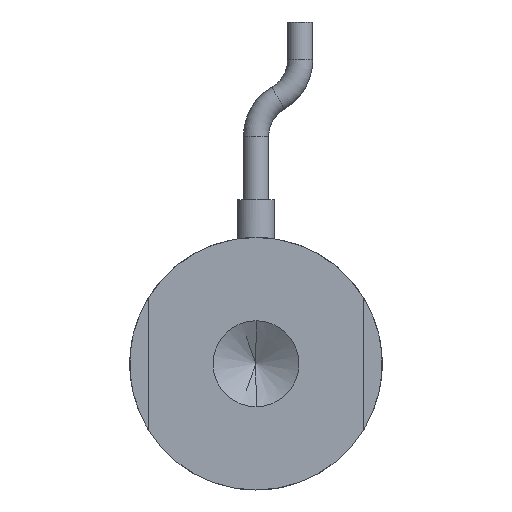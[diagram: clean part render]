
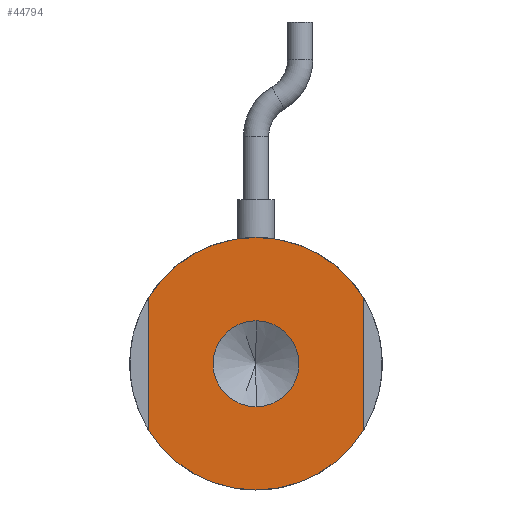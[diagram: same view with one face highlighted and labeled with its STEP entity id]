
A CAD part, front view. The second image highlights one B-rep face of the part: STEP entity #44794.
In plain terms, the highlighted planar face has unit normal (0, -1, 0).
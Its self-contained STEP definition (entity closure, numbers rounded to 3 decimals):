
#1290 = VERTEX_POINT ( 'NONE', #36623 ) ;
#2093 = DIRECTION ( 'NONE',  ( 0., 1., 0. ) ) ;
#2499 = CARTESIAN_POINT ( 'NONE',  ( 0., 0., 10. ) ) ;
#2838 = VERTEX_POINT ( 'NONE', #37810 ) ;
#3417 = CARTESIAN_POINT ( 'NONE',  ( 0., 0., 0. ) ) ;
#3435 = CARTESIAN_POINT ( 'NONE',  ( 0., 0., 0. ) ) ;
#3552 = DIRECTION ( 'NONE',  ( 0., 0., -1. ) ) ;
#4923 = CARTESIAN_POINT ( 'NONE',  ( 0., 0., 0. ) ) ;
#5875 = AXIS2_PLACEMENT_3D ( 'NONE', #4923, #29034, #8399 ) ;
#5955 = ORIENTED_EDGE ( 'NONE', *, *, #37107, .F. ) ;
#6876 = DIRECTION ( 'NONE',  ( 0., 0., 1. ) ) ;
#6895 = DIRECTION ( 'NONE',  ( 0., 0., 1. ) ) ;
#7510 = FACE_BOUND ( 'NONE', #40662, .T. ) ;
#7781 = VERTEX_POINT ( 'NONE', #9418 ) ;
#7807 = CARTESIAN_POINT ( 'NONE',  ( 0., 0., 0. ) ) ;
#8075 = AXIS2_PLACEMENT_3D ( 'NONE', #3417, #27517, #6876 ) ;
#8399 = DIRECTION ( 'NONE',  ( 0., 0., -1. ) ) ;
#9087 = CIRCLE ( 'NONE', #5875, 3.4 ) ;
#9418 = CARTESIAN_POINT ( 'NONE',  ( 0., 0., 3.4 ) ) ;
#9865 = VERTEX_POINT ( 'NONE', #2499 ) ;
#10095 = AXIS2_PLACEMENT_3D ( 'NONE', #7807, #31926, #11320 ) ;
#10986 = EDGE_CURVE ( 'NONE', #31655, #30752, #20379, .T. ) ;
#11115 = EDGE_CURVE ( 'NONE', #7781, #2838, #9087, .T. ) ;
#11160 = EDGE_CURVE ( 'NONE', #1290, #31655, #43633, .T. ) ;
#11320 = DIRECTION ( 'NONE',  ( 0., 0., 1. ) ) ;
#11921 = PLANE ( 'NONE',  #36650 ) ;
#15264 = VECTOR ( 'NONE', #40406, 1000. ) ;
#15410 = DIRECTION ( 'NONE',  ( 0., 1., 0. ) ) ;
#17514 = CARTESIAN_POINT ( 'NONE',  ( -8.5, 0., -5.268 ) ) ;
#19743 = ORIENTED_EDGE ( 'NONE', *, *, #36837, .F. ) ;
#20379 = CIRCLE ( 'NONE', #27492, 10. ) ;
#20786 = EDGE_CURVE ( 'NONE', #9865, #1290, #28154, .T. ) ;
#21726 = EDGE_CURVE ( 'NONE', #24901, #24017, #32460, .T. ) ;
#22374 = ORIENTED_EDGE ( 'NONE', *, *, #10986, .F. ) ;
#22756 = CARTESIAN_POINT ( 'NONE',  ( 0., 0., 0. ) ) ;
#23894 = AXIS2_PLACEMENT_3D ( 'NONE', #44902, #24177, #3552 ) ;
#24017 = VERTEX_POINT ( 'NONE', #40853 ) ;
#24177 = DIRECTION ( 'NONE',  ( 0., -1., 0. ) ) ;
#24901 = VERTEX_POINT ( 'NONE', #17514 ) ;
#25186 = VECTOR ( 'NONE', #33144, 1000. ) ;
#25367 = ORIENTED_EDGE ( 'NONE', *, *, #11115, .F. ) ;
#25665 = ORIENTED_EDGE ( 'NONE', *, *, #11160, .F. ) ;
#26134 = CIRCLE ( 'NONE', #28459, 10. ) ;
#26210 = DIRECTION ( 'NONE',  ( 0., 0., 1. ) ) ;
#26627 = CIRCLE ( 'NONE', #10095, 10. ) ;
#27492 = AXIS2_PLACEMENT_3D ( 'NONE', #3435, #27536, #6895 ) ;
#27517 = DIRECTION ( 'NONE',  ( 0., 1., 0. ) ) ;
#27536 = DIRECTION ( 'NONE',  ( 0., 1., 0. ) ) ;
#28154 = CIRCLE ( 'NONE', #8075, 10. ) ;
#28459 = AXIS2_PLACEMENT_3D ( 'NONE', #22756, #2093, #26210 ) ;
#29034 = DIRECTION ( 'NONE',  ( 0., -1., 0. ) ) ;
#29640 = CARTESIAN_POINT ( 'NONE',  ( 8.5, 0., 0. ) ) ;
#30752 = VERTEX_POINT ( 'NONE', #37478 ) ;
#31655 = VERTEX_POINT ( 'NONE', #35099 ) ;
#31926 = DIRECTION ( 'NONE',  ( 0., 1., 0. ) ) ;
#32041 = ORIENTED_EDGE ( 'NONE', *, *, #32755, .F. ) ;
#32460 = LINE ( 'NONE', #36794, #15264 ) ;
#32569 = CIRCLE ( 'NONE', #23894, 3.4 ) ;
#32755 = EDGE_CURVE ( 'NONE', #30752, #24901, #26134, .T. ) ;
#32885 = FACE_OUTER_BOUND ( 'NONE', #34779, .T. ) ;
#33033 = ORIENTED_EDGE ( 'NONE', *, *, #20786, .F. ) ;
#33144 = DIRECTION ( 'NONE',  ( 0., 0., -1. ) ) ;
#34779 = EDGE_LOOP ( 'NONE', ( #38602, #32041, #22374, #25665, #33033, #19743 ) ) ;
#35099 = CARTESIAN_POINT ( 'NONE',  ( 8.5, 0., -5.268 ) ) ;
#35894 = CARTESIAN_POINT ( 'NONE',  ( 0., 0., 0. ) ) ;
#36623 = CARTESIAN_POINT ( 'NONE',  ( 8.5, 0., 5.268 ) ) ;
#36650 = AXIS2_PLACEMENT_3D ( 'NONE', #35894, #15410, #39504 ) ;
#36794 = CARTESIAN_POINT ( 'NONE',  ( -8.5, 0., 0. ) ) ;
#36837 = EDGE_CURVE ( 'NONE', #24017, #9865, #26627, .T. ) ;
#37107 = EDGE_CURVE ( 'NONE', #2838, #7781, #32569, .T. ) ;
#37478 = CARTESIAN_POINT ( 'NONE',  ( 0., 0., -10. ) ) ;
#37810 = CARTESIAN_POINT ( 'NONE',  ( 0., 0., -3.4 ) ) ;
#38602 = ORIENTED_EDGE ( 'NONE', *, *, #21726, .F. ) ;
#39504 = DIRECTION ( 'NONE',  ( 0., 0., 1. ) ) ;
#40406 = DIRECTION ( 'NONE',  ( 0., 0., 1. ) ) ;
#40662 = EDGE_LOOP ( 'NONE', ( #5955, #25367 ) ) ;
#40853 = CARTESIAN_POINT ( 'NONE',  ( -8.5, 0., 5.268 ) ) ;
#43633 = LINE ( 'NONE', #29640, #25186 ) ;
#44794 = ADVANCED_FACE ( 'NONE', ( #7510, #32885 ), #11921, .F. ) ;
#44902 = CARTESIAN_POINT ( 'NONE',  ( 0., 0., 0. ) ) ;
